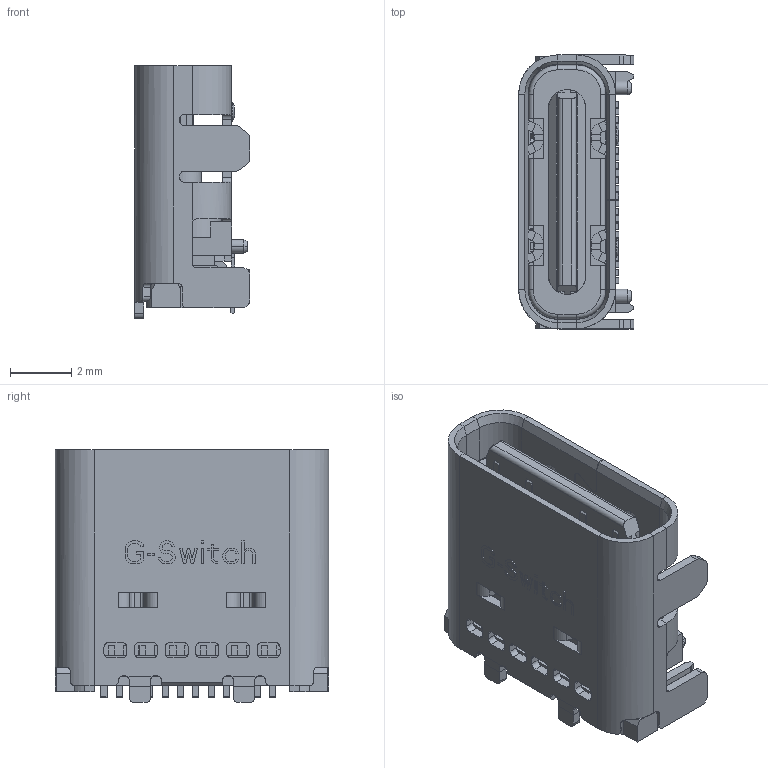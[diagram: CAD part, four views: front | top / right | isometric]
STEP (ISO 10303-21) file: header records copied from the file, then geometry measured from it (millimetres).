
FILE_DESCRIPTION((''),'2;1');
FILE_NAME('UMC01_24PIN_','2023-05-16T',('Administrator'),(''),'PRO/ENGINEER BY PARAMETRIC TECHNOLOGY CORPORATION, 2013040','PRO/ENGINEER BY PARAMETRIC TECHNOLOGY CORPORATION, 2013040','');
FILE_SCHEMA(('CONFIG_CONTROL_DESIGN'));
Length unit declared in the file: millimetre
Products named in the file (1): UMC01_24PIN_
Bounding box: 3.78 x 8.94 x 8.25 mm (x, y, z)
Volume: 81.8 mm3; surface area: 550.1 mm2
Topology: 10 solids, 13 shells, 1436 faces, 4022 edges, 2569 vertices
Faces by surface type: plane 1168, cylinder 230, torus 14, cone 10, bspline 8, sphere 4, extrusion 2
Entity records: 45811 total; most frequent: CARTESIAN_POINT 8604, ORIENTED_EDGE 7982, DIRECTION 7356, EDGE_CURVE 4018, VECTOR 3414, LINE 3412, VERTEX_POINT 2569, AXIS2_PLACEMENT_3D 1971
